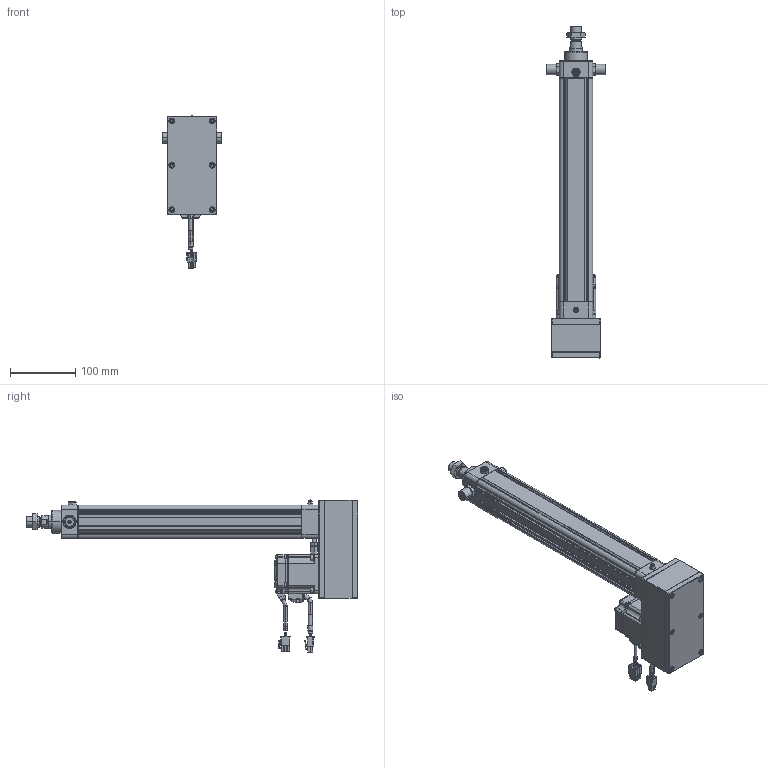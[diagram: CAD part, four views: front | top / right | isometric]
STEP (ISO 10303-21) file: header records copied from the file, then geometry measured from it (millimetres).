
FILE_DESCRIPTION((''),'2;1');
FILE_NAME('HE40-D-100_ASM','2020-05-25T',('ASUS20200'),(''),'CREO PARAMETRIC BY PTC INC, 2014190','CREO PARAMETRIC BY PTC INC, 2014190','');
FILE_SCHEMA(('CONFIG_CONTROL_DESIGN'));
Products named in the file (33): HE40-D-P-001-X1; HE40-D-P-002-X1; HE40-D-P-003-X1; 6200ZZ; SLM-01; YZ-M6X1; JDB202820; HE40-P-010-X1-200W; _MHMF022L1A2; _CABLE_MOTOR_BOTTOM_03; _CABLE_MOTOR_TOP_03; _MOTOR_CONNECTOR_2; _CABLE_BRAKE_BOTTOM_03; _CABLE_BRAKE_TOP_03; _MHMF_CONNECTOR_9_PIN_A6; MHMF022L1A2M2_1_ASM; MHMF022L1A2M2_ASM; JX5X5X20; TD-5; M5X20; LM-M6X1; M6X25; LM-M6-15; M6; HE40-P-012-X2; HE40-P-014-X1; M4X65; HE40-TC; HE40-D-P-005-X1; HE40-D-P-004-X1; HE40-D-P-008-X1; LGLM-M6-22; HE40-D-100_ASM
Assembly tree (50 placements, depth 4):
  HE40-D-100_ASM
    HE40-D-P-001-X1
    HE40-D-P-002-X1
    HE40-D-P-003-X1
    6200ZZ
    SLM-01
    YZ-M6X1
    JDB202820
    HE40-P-010-X1-200W
    MHMF022L1A2M2_ASM
      MHMF022L1A2M2_1_ASM
        _MHMF022L1A2
        _CABLE_MOTOR_BOTTOM_03
        _CABLE_MOTOR_TOP_03
        _MOTOR_CONNECTOR_2
        _CABLE_BRAKE_BOTTOM_03
        _CABLE_BRAKE_TOP_03
        _MHMF_CONNECTOR_9_PIN_A6
    JX5X5X20
    TD-5  x4
    M5X20  x4
    LM-M6X1  x4
    M6X25
    LM-M6-15
    M6
    HE40-P-012-X2
    HE40-P-014-X1
    M4X65  x6
    HE40-TC  x2
    HE40-D-P-005-X1
    HE40-D-P-004-X1
    HE40-D-P-008-X1
    LGLM-M6-22  x4
Bounding box: 91 x 507.5 x 232.7 mm (x, y, z)
Volume: 1041195.8 mm3; surface area: 389390.9 mm2
Topology: 48 solids, 77 shells, 2895 faces, 6922 edges, 4267 vertices
Faces by surface type: plane 1228, cylinder 795, cone 692, torus 142, sphere 34, bspline 4
Entity records: 74910 total; most frequent: CARTESIAN_POINT 14584, DIRECTION 13161, ORIENTED_EDGE 11876, EDGE_CURVE 5996, AXIS2_PLACEMENT_3D 4901, VERTEX_POINT 3733, VECTOR 3359, LINE 3359
